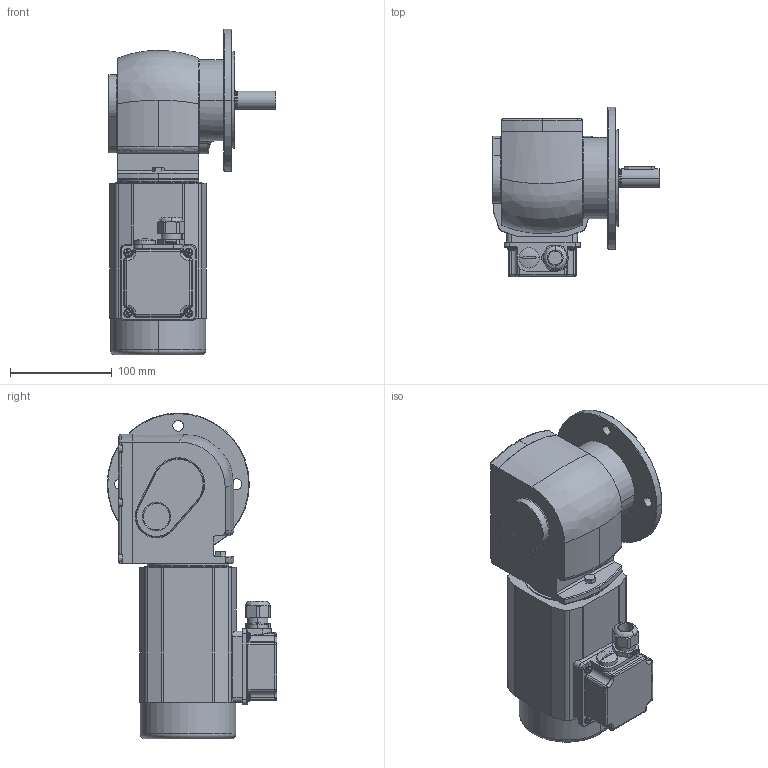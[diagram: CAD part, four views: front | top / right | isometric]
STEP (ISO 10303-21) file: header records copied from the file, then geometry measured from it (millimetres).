
FILE_DESCRIPTION (( 'STEP AP214' ), '1' );
FILE_NAME ('SN13F_120W_Gleichstrom-Motor_C.STEP', '2022-08-05T07:26:12', ( '' ), ( '' ), 'SwSTEP 2.0', 'SolidWorks 2021', '' );
FILE_SCHEMA (( 'AUTOMOTIVE_DESIGN' ));
Length unit declared in the file: millimetre
Products named in the file (15): 13-G-006_3D-Export; 03-M-252 I 120W_3000Upm; 13F-F-006; NBR_WDR_20x42x7; hex screw gradec_iso_ISO 4018 - M6 x 20-NC; PF_A6x6x30; slotted cheese head screw_din_DIN EN ISO 1207 - M5 x 20 - 20C; K_26x6,5; slotted cheese head screw_iso_ISO 1207 - M5 x 20 - 20C; 13-D-003_3D-Export; 13F-W-004_3D-Export; slotted cheese head screw_iso_ISO 1207 - M5 x 12 - 12C; SN13F_3D-Export; socket set screw flat point_iso_ISO 4026 - M6 x 30-C; SN13F_120W_Gleichstrom-Motor_C
Assembly tree (26 placements, depth 3):
  SN13F_120W_Gleichstrom-Motor_C
    SN13F_3D-Export
      13-G-006_3D-Export
      13-D-003_3D-Export
      13F-W-004_3D-Export
      13F-F-006
      PF_A6x6x30
      K_26x6,5
      NBR_WDR_20x42x7
      slotted cheese head screw_din_DIN EN ISO 1207 - M5 x 20 - 20C  x4
      slotted cheese head screw_iso_ISO 1207 - M5 x 12 - 12C  x8
      slotted cheese head screw_iso_ISO 1207 - M5 x 20 - 20C  x2
      hex screw gradec_iso_ISO 4018 - M6 x 20-NC
      socket set screw flat point_iso_ISO 4026 - M6 x 30-C  x2
    03-M-252 I 120W_3000Upm
Bounding box: 164.7 x 167.1 x 321 mm (x, y, z)
Volume: 2929947.2 mm3; surface area: 261729.6 mm2
Topology: 26 solids, 27 shells, 1049 faces, 2608 edges, 1656 vertices
Faces by surface type: plane 350, cylinder 330, cone 181, torus 118, bspline 46, sphere 24
Entity records: 30015 total; most frequent: CARTESIAN_POINT 7433, DIRECTION 4652, ORIENTED_EDGE 4404, EDGE_CURVE 2202, AXIS2_PLACEMENT_3D 1867, VERTEX_POINT 1416, EDGE_LOOP 1010, CIRCLE 992
